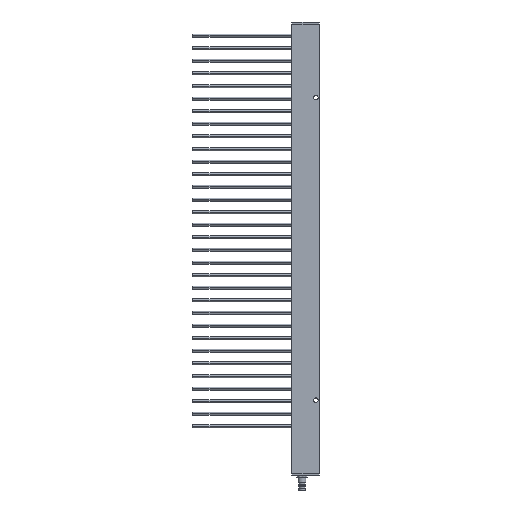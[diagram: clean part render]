
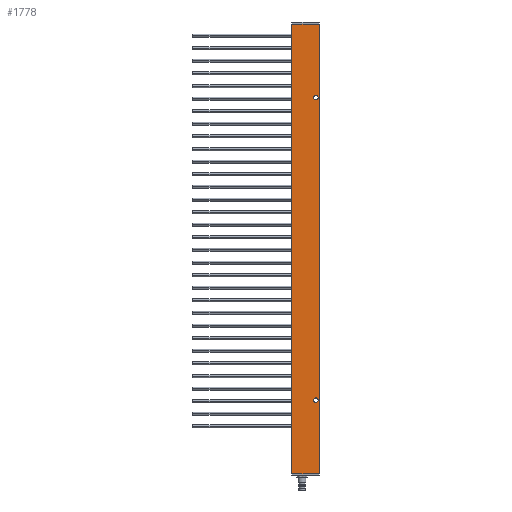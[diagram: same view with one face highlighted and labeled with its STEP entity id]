
A CAD part, left-side view. The second image highlights one B-rep face of the part: STEP entity #1778.
In plain terms, the highlighted planar face has unit normal (-1, 0, 0).
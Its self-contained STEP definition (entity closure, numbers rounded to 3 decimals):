
#559 = VERTEX_POINT ( 'NONE', #3144 ) ;
#618 = DIRECTION ( 'NONE',  ( -1., 0., 0. ) ) ;
#654 = CARTESIAN_POINT ( 'NONE',  ( -41.784, 26.206, -273.208 ) ) ;
#759 = FACE_BOUND ( 'NONE', #3266, .T. ) ;
#886 = ORIENTED_EDGE ( 'NONE', *, *, #1009, .F. ) ;
#1009 = EDGE_CURVE ( 'NONE', #6722, #3971, #2476, .T. ) ;
#1050 = VECTOR ( 'NONE', #3424, 1000. ) ;
#1085 = ORIENTED_EDGE ( 'NONE', *, *, #6755, .F. ) ;
#1185 = DIRECTION ( 'NONE',  ( 0., 0., -1. ) ) ;
#1211 = LINE ( 'NONE', #5675, #1050 ) ;
#1245 = DIRECTION ( 'NONE',  ( 1., 0., 0. ) ) ;
#1462 = CIRCLE ( 'NONE', #4163, 2.25 ) ;
#1464 = ORIENTED_EDGE ( 'NONE', *, *, #2553, .F. ) ;
#1567 = CARTESIAN_POINT ( 'NONE',  ( -41.784, 2.506, -675. ) ) ;
#1571 = ORIENTED_EDGE ( 'NONE', *, *, #6200, .F. ) ;
#1572 = CARTESIAN_POINT ( 'NONE',  ( -41.784, -0.794, -302. ) ) ;
#1662 = AXIS2_PLACEMENT_3D ( 'NONE', #3152, #1245, #1720 ) ;
#1720 = DIRECTION ( 'NONE',  ( 0., 0., -1. ) ) ;
#1774 = CARTESIAN_POINT ( 'NONE',  ( -41.784, 2.506, -672.75 ) ) ;
#1778 = ADVANCED_FACE ( 'NONE', ( #2215, #759, #6492 ), #4361, .F. ) ;
#1979 = VERTEX_POINT ( 'NONE', #2856 ) ;
#1994 = EDGE_CURVE ( 'NONE', #559, #1979, #5632, .T. ) ;
#2061 = CIRCLE ( 'NONE', #3555, 2.25 ) ;
#2150 = LINE ( 'NONE', #654, #6428 ) ;
#2208 = CARTESIAN_POINT ( 'NONE',  ( -41.784, 4.906, -302. ) ) ;
#2215 = FACE_BOUND ( 'NONE', #3045, .T. ) ;
#2406 = DIRECTION ( 'NONE',  ( 0., 0., 1. ) ) ;
#2476 = CIRCLE ( 'NONE', #5195, 2.25 ) ;
#2545 = DIRECTION ( 'NONE',  ( -1., 0., 0. ) ) ;
#2553 = EDGE_CURVE ( 'NONE', #3971, #6722, #3242, .T. ) ;
#2625 = ORIENTED_EDGE ( 'NONE', *, *, #4708, .T. ) ;
#2648 = DIRECTION ( 'NONE',  ( -1., 0., 0. ) ) ;
#2679 = VECTOR ( 'NONE', #6118, 1000. ) ;
#2694 = VERTEX_POINT ( 'NONE', #3040 ) ;
#2856 = CARTESIAN_POINT ( 'NONE',  ( -41.784, -0.794, -748. ) ) ;
#3040 = CARTESIAN_POINT ( 'NONE',  ( -41.784, 26.206, -302. ) ) ;
#3045 = EDGE_LOOP ( 'NONE', ( #1464, #886 ) ) ;
#3094 = VERTEX_POINT ( 'NONE', #1572 ) ;
#3111 = ORIENTED_EDGE ( 'NONE', *, *, #1994, .T. ) ;
#3144 = CARTESIAN_POINT ( 'NONE',  ( -41.784, 26.206, -748. ) ) ;
#3152 = CARTESIAN_POINT ( 'NONE',  ( -41.784, 4.906, -273.208 ) ) ;
#3242 = CIRCLE ( 'NONE', #3850, 2.25 ) ;
#3266 = EDGE_LOOP ( 'NONE', ( #5156, #1571 ) ) ;
#3334 = EDGE_CURVE ( 'NONE', #3094, #1979, #1211, .T. ) ;
#3424 = DIRECTION ( 'NONE',  ( 0., 0., -1. ) ) ;
#3555 = AXIS2_PLACEMENT_3D ( 'NONE', #3914, #618, #4466 ) ;
#3671 = CARTESIAN_POINT ( 'NONE',  ( -41.784, 4.906, -748. ) ) ;
#3850 = AXIS2_PLACEMENT_3D ( 'NONE', #3957, #6168, #2406 ) ;
#3914 = CARTESIAN_POINT ( 'NONE',  ( -41.784, 2.506, -375. ) ) ;
#3957 = CARTESIAN_POINT ( 'NONE',  ( -41.784, 2.506, -675. ) ) ;
#3971 = VERTEX_POINT ( 'NONE', #1774 ) ;
#4163 = AXIS2_PLACEMENT_3D ( 'NONE', #5899, #2545, #6462 ) ;
#4295 = DIRECTION ( 'NONE',  ( 0., 0., 1. ) ) ;
#4361 = PLANE ( 'NONE',  #1662 ) ;
#4466 = DIRECTION ( 'NONE',  ( 0., 0., 1. ) ) ;
#4708 = EDGE_CURVE ( 'NONE', #2694, #559, #2150, .T. ) ;
#4900 = VERTEX_POINT ( 'NONE', #5276 ) ;
#4936 = CARTESIAN_POINT ( 'NONE',  ( -41.784, 2.506, -677.25 ) ) ;
#5156 = ORIENTED_EDGE ( 'NONE', *, *, #6537, .F. ) ;
#5195 = AXIS2_PLACEMENT_3D ( 'NONE', #1567, #2648, #4295 ) ;
#5264 = VECTOR ( 'NONE', #6367, 1000. ) ;
#5276 = CARTESIAN_POINT ( 'NONE',  ( -41.784, 2.506, -377.25 ) ) ;
#5632 = LINE ( 'NONE', #3671, #5264 ) ;
#5675 = CARTESIAN_POINT ( 'NONE',  ( -41.784, -0.794, -273.208 ) ) ;
#5697 = VERTEX_POINT ( 'NONE', #6209 ) ;
#5899 = CARTESIAN_POINT ( 'NONE',  ( -41.784, 2.506, -375. ) ) ;
#6118 = DIRECTION ( 'NONE',  ( 0., -1., 0. ) ) ;
#6168 = DIRECTION ( 'NONE',  ( -1., 0., 0. ) ) ;
#6200 = EDGE_CURVE ( 'NONE', #4900, #5697, #2061, .T. ) ;
#6209 = CARTESIAN_POINT ( 'NONE',  ( -41.784, 2.506, -372.75 ) ) ;
#6334 = ORIENTED_EDGE ( 'NONE', *, *, #3334, .F. ) ;
#6367 = DIRECTION ( 'NONE',  ( 0., -1., 0. ) ) ;
#6428 = VECTOR ( 'NONE', #1185, 1000. ) ;
#6462 = DIRECTION ( 'NONE',  ( 0., 0., 1. ) ) ;
#6492 = FACE_OUTER_BOUND ( 'NONE', #7037, .T. ) ;
#6537 = EDGE_CURVE ( 'NONE', #5697, #4900, #1462, .T. ) ;
#6722 = VERTEX_POINT ( 'NONE', #4936 ) ;
#6755 = EDGE_CURVE ( 'NONE', #2694, #3094, #6967, .T. ) ;
#6967 = LINE ( 'NONE', #2208, #2679 ) ;
#7037 = EDGE_LOOP ( 'NONE', ( #1085, #2625, #3111, #6334 ) ) ;
